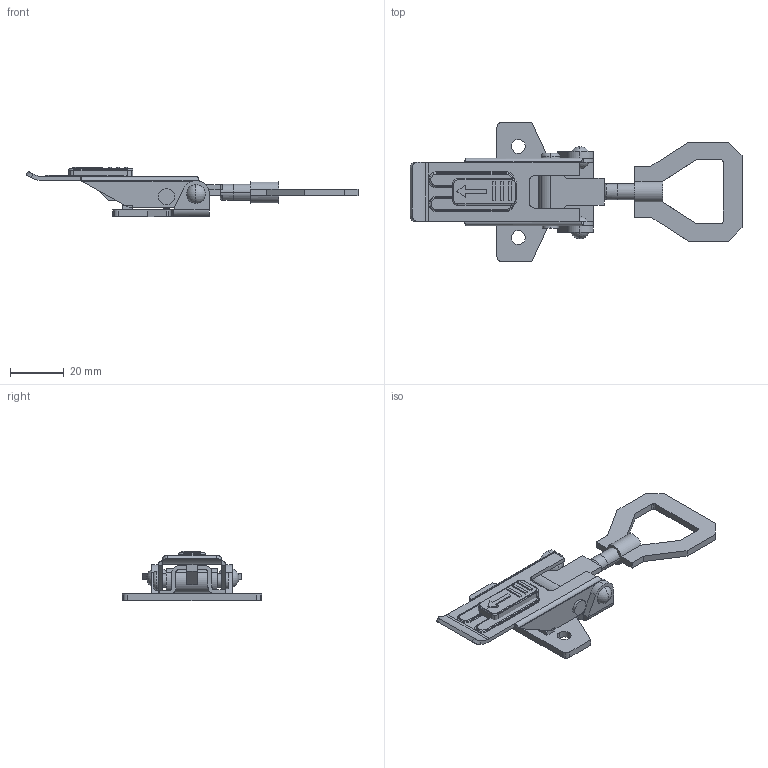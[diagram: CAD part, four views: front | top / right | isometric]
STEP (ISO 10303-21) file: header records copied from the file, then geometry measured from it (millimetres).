
FILE_DESCRIPTION((''),'2;1');
FILE_NAME('1016.stp','2012-06-06T16:56:18',(''),(''),'Mechanical Desktop 2006','Mechanical Desktop 2006',', , ');
FILE_SCHEMA(('CONFIG_CONTROL_DESIGN'));
Length unit declared in the file: millimetre
Products named in the file (18): 1016_; 1015.1; TEIL1; 1015.3; ~TEIL1; 1015.4; ~~TEIL1; 1015.5; ~~~TEIL1; 1015.6; ~~~~TEIL1; ~NIET - DIN 660 - A 4 X 10; 1015.8; ~~~~~~~TEIL1; 1016.8; ~~~~~~~~TEIL1; 1016.7; ~~~~~TEIL1
Assembly tree (18 placements, depth 3):
  1016_
    1015.1
      TEIL1
    1015.3
      ~TEIL1
    1015.4
      ~~TEIL1
    1015.5
      ~~~TEIL1
    1015.6
      ~~~~TEIL1
    ~NIET - DIN 660 - A 4 X 10  x2
    1015.8
      ~~~~~~~TEIL1
    1016.8
      ~~~~~~~~TEIL1
    1016.7
      ~~~~~TEIL1
Bounding box: 123.96 x 52 x 18.39 mm (x, y, z)
Volume: 12888.2 mm3; surface area: 14919.7 mm2
Topology: 10 solids, 10 shells, 334 faces, 854 edges, 552 vertices
Faces by surface type: cylinder 150, plane 143, bspline 17, torus 16, sphere 8
Entity records: 11310 total; most frequent: CARTESIAN_POINT 2820, DIRECTION 1785, ORIENTED_EDGE 1680, EDGE_CURVE 840, AXIS2_PLACEMENT_3D 651, VERTEX_POINT 542, VECTOR 483, LINE 483
